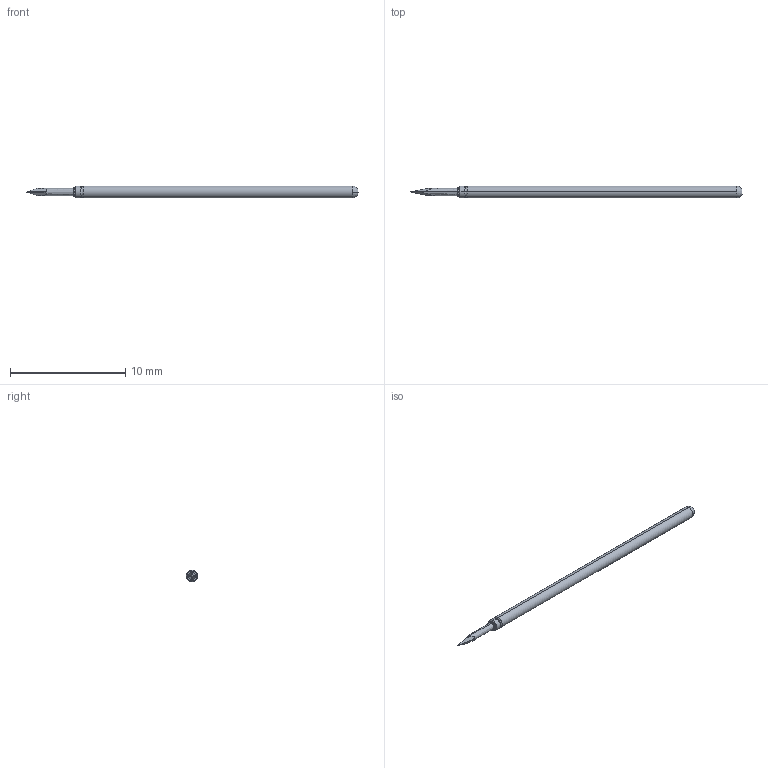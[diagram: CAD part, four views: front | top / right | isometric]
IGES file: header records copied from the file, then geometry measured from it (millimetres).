
Start section: SolidWorks IGES file using analytic representation for surfaces
Global section: file name: Z:\probe solid model mockups\Solidworks models\Parts\LFRE-1I35 RECD.IGS; native system: SolidWorks 2016; preprocessor: SolidWorks 2016; author: mlee; date: 180927.163329; units: inch
Bounding box: 28.78 x 1.02 x 1.02 mm (x, y, z)
Surface area: 85.9 mm2 (no closed solid volume)
Topology: 0 solids, 0 shells, 22 faces, 158 edges, 158 vertices
Faces by surface type: revolution 12, bspline 10
